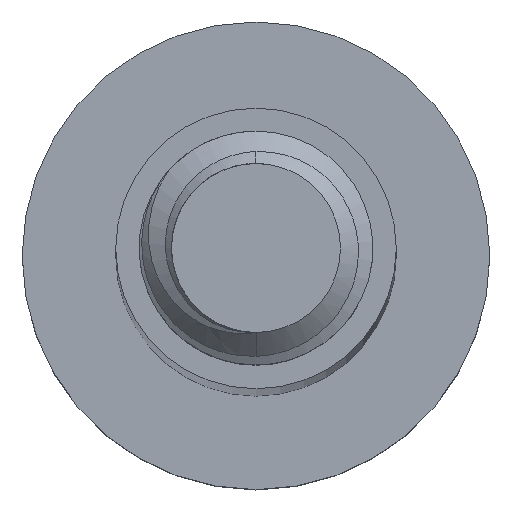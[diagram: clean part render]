
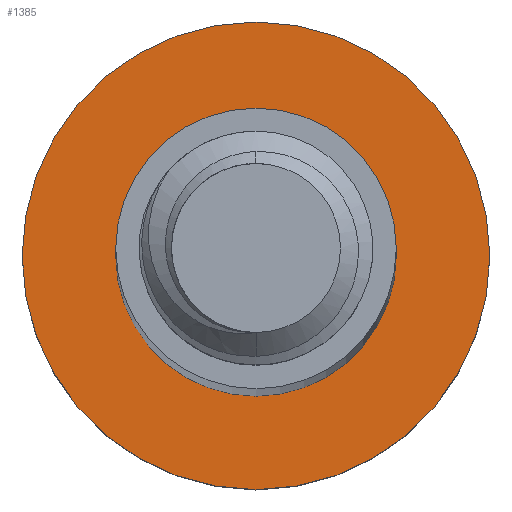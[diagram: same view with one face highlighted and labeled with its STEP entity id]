
A CAD part, top view. The second image highlights one B-rep face of the part: STEP entity #1385.
In plain terms, the highlighted planar face has unit normal (0, 0, 1).
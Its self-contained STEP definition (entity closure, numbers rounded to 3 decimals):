
#109 = ORIENTED_EDGE ( 'NONE', *, *, #2262, .T. ) ;
#133 = DIRECTION ( 'NONE',  ( 0., 0., -1. ) ) ;
#150 = ORIENTED_EDGE ( 'NONE', *, *, #2091, .F. ) ;
#168 = CARTESIAN_POINT ( 'NONE',  ( -5., 0., -90. ) ) ;
#182 = DIRECTION ( 'NONE',  ( 0., 0., -1. ) ) ;
#265 = CARTESIAN_POINT ( 'NONE',  ( 0., 0., -90. ) ) ;
#299 = ORIENTED_EDGE ( 'NONE', *, *, #468, .T. ) ;
#399 = VERTEX_POINT ( 'NONE', #407 ) ;
#401 = DIRECTION ( 'NONE',  ( -1., 0., 0. ) ) ;
#404 = FACE_BOUND ( 'NONE', #448, .T. ) ;
#407 = CARTESIAN_POINT ( 'NONE',  ( 5., 0., -90. ) ) ;
#448 = EDGE_LOOP ( 'NONE', ( #109, #299 ) ) ;
#468 = EDGE_CURVE ( 'NONE', #2258, #1843, #682, .T. ) ;
#530 = CARTESIAN_POINT ( 'NONE',  ( 0., 0., -90. ) ) ;
#595 = DIRECTION ( 'NONE',  ( -1., 0., 0. ) ) ;
#628 = CARTESIAN_POINT ( 'NONE',  ( 3., 0., -90. ) ) ;
#682 = CIRCLE ( 'NONE', #2242, 3. ) ;
#715 = DIRECTION ( 'NONE',  ( -1., 0., 0. ) ) ;
#952 = DIRECTION ( 'NONE',  ( 0., 0., -1. ) ) ;
#1022 = DIRECTION ( 'NONE',  ( -1., 0., 0. ) ) ;
#1109 = AXIS2_PLACEMENT_3D ( 'NONE', #1878, #182, #715 ) ;
#1130 = EDGE_LOOP ( 'NONE', ( #1670, #150 ) ) ;
#1149 = AXIS2_PLACEMENT_3D ( 'NONE', #265, #1155, #595 ) ;
#1155 = DIRECTION ( 'NONE',  ( 0., 0., -1. ) ) ;
#1164 = PLANE ( 'NONE',  #1149 ) ;
#1272 = CIRCLE ( 'NONE', #1827, 3. ) ;
#1273 = DIRECTION ( 'NONE',  ( 0., 0., -1. ) ) ;
#1361 = CARTESIAN_POINT ( 'NONE',  ( 0., 0., -90. ) ) ;
#1385 = ADVANCED_FACE ( 'NONE', ( #404, #1732 ), #1164, .F. ) ;
#1596 = EDGE_CURVE ( 'NONE', #399, #1972, #1742, .T. ) ;
#1640 = CARTESIAN_POINT ( 'NONE',  ( -3., 0., -90. ) ) ;
#1670 = ORIENTED_EDGE ( 'NONE', *, *, #1596, .F. ) ;
#1732 = FACE_OUTER_BOUND ( 'NONE', #1130, .T. ) ;
#1742 = CIRCLE ( 'NONE', #1109, 5. ) ;
#1757 = CARTESIAN_POINT ( 'NONE',  ( 0., 0., -90. ) ) ;
#1827 = AXIS2_PLACEMENT_3D ( 'NONE', #1757, #133, #1022 ) ;
#1843 = VERTEX_POINT ( 'NONE', #1640 ) ;
#1878 = CARTESIAN_POINT ( 'NONE',  ( 0., 0., -90. ) ) ;
#1938 = AXIS2_PLACEMENT_3D ( 'NONE', #1361, #952, #401 ) ;
#1972 = VERTEX_POINT ( 'NONE', #168 ) ;
#2026 = DIRECTION ( 'NONE',  ( -1., 0., 0. ) ) ;
#2091 = EDGE_CURVE ( 'NONE', #1972, #399, #2316, .T. ) ;
#2242 = AXIS2_PLACEMENT_3D ( 'NONE', #530, #1273, #2026 ) ;
#2258 = VERTEX_POINT ( 'NONE', #628 ) ;
#2262 = EDGE_CURVE ( 'NONE', #1843, #2258, #1272, .T. ) ;
#2316 = CIRCLE ( 'NONE', #1938, 5. ) ;
